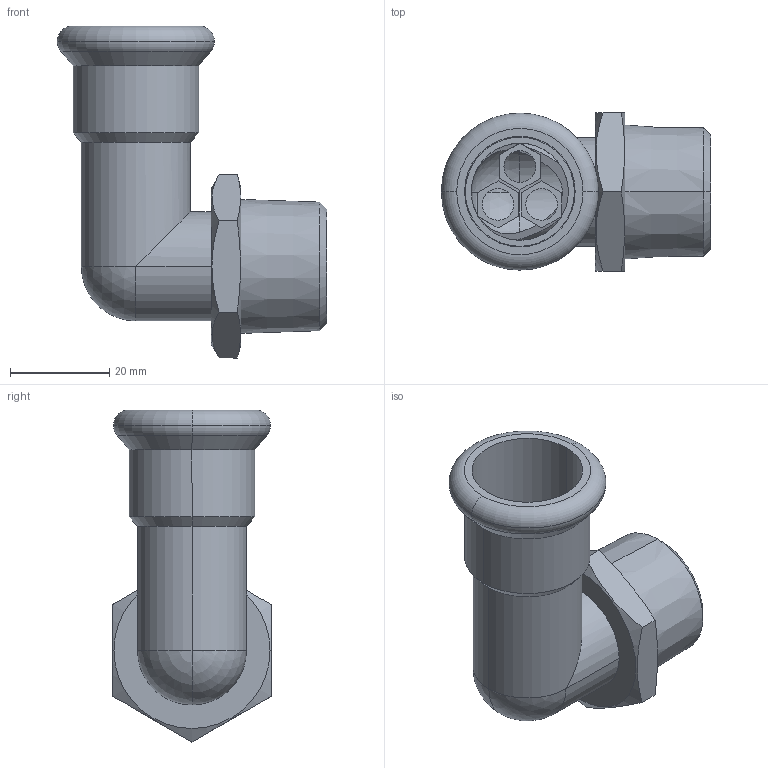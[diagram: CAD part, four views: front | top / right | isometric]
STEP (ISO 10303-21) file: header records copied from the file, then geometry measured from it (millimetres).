
FILE_DESCRIPTION(('OneSpaceDesigner STEP Export'),'2;1');
FILE_NAME('R2728 22x3-4.stp','2010-06-10T13:19:04',(''),(''),'OneSpace Designer STEP processor for AP214 (Solid Model)','OneSpace Modeling 15.00A 14-Mar-2007 (C) CoCreate Software GmbH','');
FILE_SCHEMA(('AUTOMOTIVE_DESIGN { 1 0 10303 214 1 1 1 1 }'));
Length unit declared in the file: millimetre
Products named in the file (2): R2728_22x3-4
Assembly tree (1 placements, depth 2):
  R2728_22x3-4
    R2728_22x3-4
Bounding box: 54.35 x 32 x 66.98 mm (x, y, z)
Volume: 15066.1 mm3; surface area: 14690.8 mm2
Topology: 1 solids, 1 shells, 126 faces, 329 edges, 213 vertices
Faces by surface type: plane 68, cylinder 36, cone 12, sphere 6, torus 4
Entity records: 4526 total; most frequent: CARTESIAN_POINT 1637, ORIENTED_EDGE 650, DIRECTION 504, EDGE_CURVE 325, VERTEX_POINT 213, VECTOR 184, LINE 184, AXIS2_PLACEMENT_3D 160
